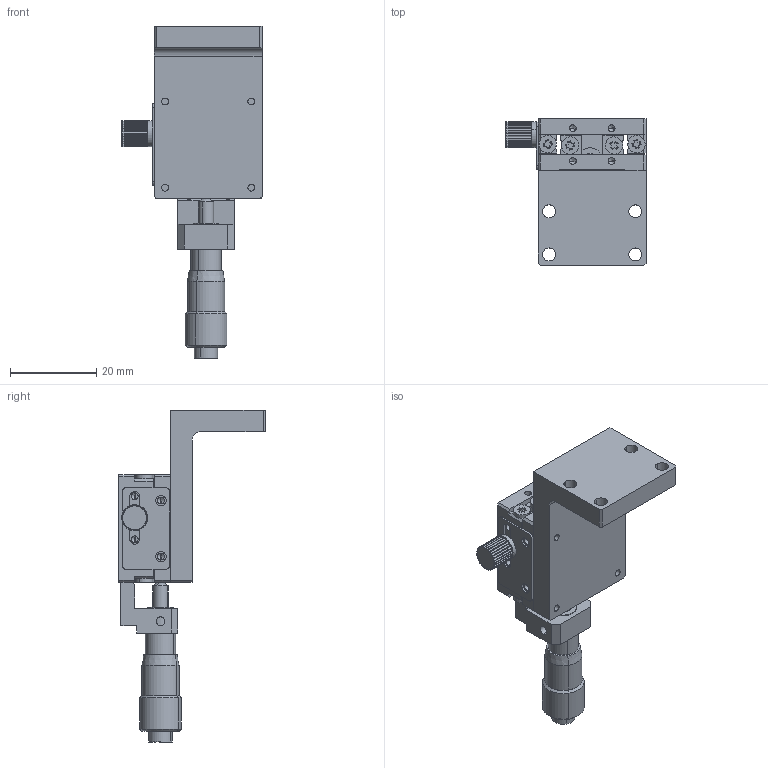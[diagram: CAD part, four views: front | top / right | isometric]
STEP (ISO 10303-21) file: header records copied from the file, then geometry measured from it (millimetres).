
FILE_DESCRIPTION (( 'STEP AP203' ), '1' );
FILE_NAME ('JZ-25C-12H.STEP', '2023-03-14T07:16:05', ( '微软用户' ), ( '微软中国' ), 'SwSTEP 2.0', 'SolidWorks 2018', '' );
FILE_SCHEMA (( 'CONFIG_CONTROL_DESIGN' ));
Length unit declared in the file: millimetre
Products named in the file (10): JX-25-06 C千分尺固定块; FC-NB-6   幗豪蹟佪; JALB-71-R    0-6.5埴芛ロ煦喜; JX-25-07 L啣; JX-25-01奻裔; JZ-25C-12H; 蹟佪; JX-25-02狟裔; FC-SJ-2 菜え; JX-25-08 癹弇え
Assembly tree (16 placements, depth 2):
  JZ-25C-12H
    JX-25-02狟裔
    JX-25-01奻裔
    蹟佪  x8
    JX-25-08 癹弇え
    FC-NB-6   幗豪蹟佪
    FC-SJ-2 菜え
    JALB-71-R    0-6.5埴芛ロ煦喜
    JX-25-06 C千分尺固定块
    JX-25-07 L啣
Bounding box: 32.5 x 34 x 77 mm (x, y, z)
Volume: 15532.2 mm3; surface area: 12358 mm2
Topology: 16 solids, 16 shells, 569 faces, 1512 edges, 957 vertices
Faces by surface type: cylinder 271, plane 234, cone 62, sphere 2
Entity records: 14872 total; most frequent: DIRECTION 2484, CARTESIAN_POINT 2455, ORIENTED_EDGE 2240, EDGE_CURVE 1120, AXIS2_PLACEMENT_3D 942, VERTEX_POINT 733, LINE 600, VECTOR 600
